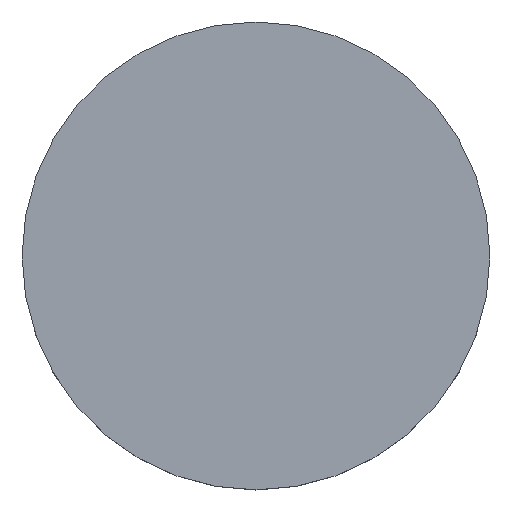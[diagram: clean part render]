
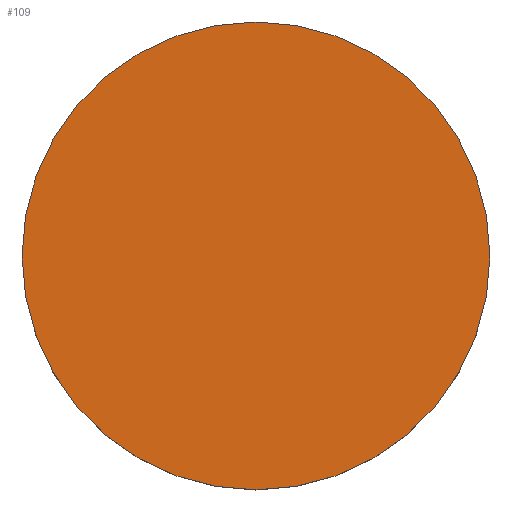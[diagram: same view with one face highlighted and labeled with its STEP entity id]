
A CAD part, top view. The second image highlights one B-rep face of the part: STEP entity #109.
In plain terms, the highlighted planar face has unit normal (0, 0, 1).
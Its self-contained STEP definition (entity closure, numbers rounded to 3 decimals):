
#24 = VERTEX_POINT('',#25);
#25 = CARTESIAN_POINT('',(60.,0.,30.));
#32 = CYLINDRICAL_SURFACE('',#33,60.);
#33 = AXIS2_PLACEMENT_3D('',#34,#35,#36);
#34 = CARTESIAN_POINT('',(0.,0.,12.));
#35 = DIRECTION('',(-0.,-0.,-1.));
#36 = DIRECTION('',(1.,0.,0.));
#51 = EDGE_CURVE('',#24,#24,#52,.T.);
#52 = SURFACE_CURVE('',#53,(#58,#65),.PCURVE_S1.);
#53 = CIRCLE('',#54,60.);
#54 = AXIS2_PLACEMENT_3D('',#55,#56,#57);
#55 = CARTESIAN_POINT('',(0.,0.,30.));
#56 = DIRECTION('',(0.,0.,1.));
#57 = DIRECTION('',(1.,0.,0.));
#58 = PCURVE('',#32,#59);
#59 = DEFINITIONAL_REPRESENTATION('',(#60),#64);
#60 = LINE('',#61,#62);
#61 = CARTESIAN_POINT('',(-0.,-18.));
#62 = VECTOR('',#63,1.);
#63 = DIRECTION('',(-1.,0.));
#64 = ( GEOMETRIC_REPRESENTATION_CONTEXT(2) 
PARAMETRIC_REPRESENTATION_CONTEXT() REPRESENTATION_CONTEXT('2D SPACE',''
  ) );
#65 = PCURVE('',#66,#71);
#66 = PLANE('',#67);
#67 = AXIS2_PLACEMENT_3D('',#68,#69,#70);
#68 = CARTESIAN_POINT('',(0.,0.,30.));
#69 = DIRECTION('',(0.,0.,1.));
#70 = DIRECTION('',(1.,0.,-0.));
#71 = DEFINITIONAL_REPRESENTATION('',(#72),#76);
#72 = CIRCLE('',#73,60.);
#73 = AXIS2_PLACEMENT_2D('',#74,#75);
#74 = CARTESIAN_POINT('',(0.,0.));
#75 = DIRECTION('',(1.,0.));
#76 = ( GEOMETRIC_REPRESENTATION_CONTEXT(2) 
PARAMETRIC_REPRESENTATION_CONTEXT() REPRESENTATION_CONTEXT('2D SPACE',''
  ) );
#109 = ADVANCED_FACE('',(#110),#66,.T.);
#110 = FACE_BOUND('',#111,.T.);
#111 = EDGE_LOOP('',(#112));
#112 = ORIENTED_EDGE('',*,*,#51,.T.);
